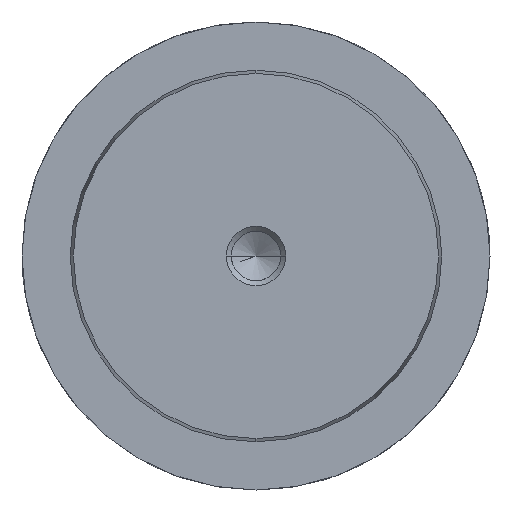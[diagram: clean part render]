
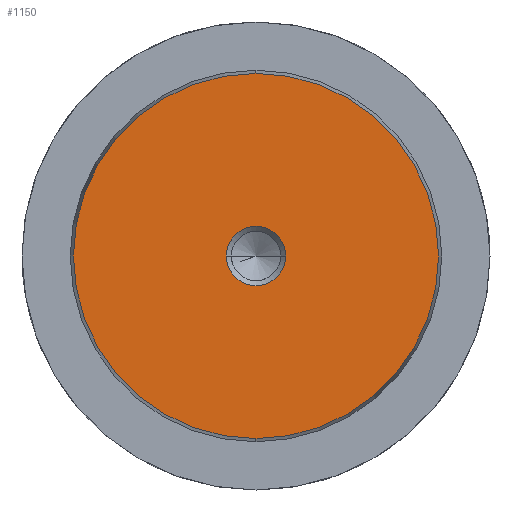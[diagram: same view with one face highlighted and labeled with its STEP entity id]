
A CAD part, left-side view. The second image highlights one B-rep face of the part: STEP entity #1150.
In plain terms, the highlighted planar face has unit normal (-1, 0, 0).
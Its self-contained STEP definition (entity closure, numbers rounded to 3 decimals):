
#1064=CARTESIAN_POINT('Vertex',(0.,0.,-24.578)) ;
#1067=CARTESIAN_POINT('Axis2P3D Location',(0.,0.,0.)) ;
#1071=CARTESIAN_POINT('Vertex',(0.,24.578,0.)) ;
#1074=CARTESIAN_POINT('Axis2P3D Location',(0.,0.,0.)) ;
#1078=CARTESIAN_POINT('Vertex',(0.,0.,24.578)) ;
#1100=CARTESIAN_POINT('Axis2P3D Location',(0.,0.,0.)) ;
#1104=CARTESIAN_POINT('Vertex',(0.,-24.578,0.)) ;
#1107=CARTESIAN_POINT('Axis2P3D Location',(0.,0.,0.)) ;
#1121=CARTESIAN_POINT('Axis2P3D Location',(0.,0.,0.)) ;
#1132=CARTESIAN_POINT('Axis2P3D Location',(0.,0.,0.)) ;
#1136=CARTESIAN_POINT('Vertex',(0.,4.,0.)) ;
#1138=CARTESIAN_POINT('Vertex',(0.,-4.,0.)) ;
#1141=CARTESIAN_POINT('Axis2P3D Location',(0.,0.,0.)) ;
#1068=DIRECTION('Axis2P3D Direction',(1.,0.,-0.)) ;
#1075=DIRECTION('Axis2P3D Direction',(1.,0.,-0.)) ;
#1101=DIRECTION('Axis2P3D Direction',(1.,0.,-0.)) ;
#1108=DIRECTION('Axis2P3D Direction',(1.,0.,-0.)) ;
#1122=DIRECTION('Axis2P3D Direction',(1.,0.,-0.)) ;
#1123=DIRECTION('Axis2P3D XDirection',(-0.,0.,-1.)) ;
#1133=DIRECTION('Axis2P3D Direction',(1.,0.,-0.)) ;
#1142=DIRECTION('Axis2P3D Direction',(1.,0.,-0.)) ;
#1069=AXIS2_PLACEMENT_3D('Circle Axis2P3D',#1067,#1068,$) ;
#1076=AXIS2_PLACEMENT_3D('Circle Axis2P3D',#1074,#1075,$) ;
#1102=AXIS2_PLACEMENT_3D('Circle Axis2P3D',#1100,#1101,$) ;
#1109=AXIS2_PLACEMENT_3D('Circle Axis2P3D',#1107,#1108,$) ;
#1124=AXIS2_PLACEMENT_3D('Plane Axis2P3D',#1121,#1122,#1123) ;
#1134=AXIS2_PLACEMENT_3D('Circle Axis2P3D',#1132,#1133,$) ;
#1143=AXIS2_PLACEMENT_3D('Circle Axis2P3D',#1141,#1142,$) ;
#1127=ORIENTED_EDGE('',*,*,#1073,.F.) ;
#1128=ORIENTED_EDGE('',*,*,#1111,.F.) ;
#1129=ORIENTED_EDGE('',*,*,#1106,.F.) ;
#1130=ORIENTED_EDGE('',*,*,#1080,.F.) ;
#1147=ORIENTED_EDGE('',*,*,#1140,.T.) ;
#1148=ORIENTED_EDGE('',*,*,#1145,.T.) ;
#1149=FACE_BOUND('',#1146,.T.) ;
#1150=ADVANCED_FACE('718-50x140',(#1131,#1149),#1125,.F.) ;
#1070=CIRCLE('generated circle',#1069,24.578) ;
#1077=CIRCLE('generated circle',#1076,24.578) ;
#1103=CIRCLE('generated circle',#1102,24.578) ;
#1110=CIRCLE('generated circle',#1109,24.578) ;
#1135=CIRCLE('generated circle',#1134,4.) ;
#1144=CIRCLE('generated circle',#1143,4.) ;
#1073=EDGE_CURVE('',#1065,#1072,#1070,.T.) ;
#1080=EDGE_CURVE('',#1072,#1079,#1077,.T.) ;
#1106=EDGE_CURVE('',#1079,#1105,#1103,.T.) ;
#1111=EDGE_CURVE('',#1105,#1065,#1110,.T.) ;
#1140=EDGE_CURVE('',#1137,#1139,#1135,.T.) ;
#1145=EDGE_CURVE('',#1139,#1137,#1144,.T.) ;
#1126=EDGE_LOOP('',(#1127,#1128,#1129,#1130)) ;
#1146=EDGE_LOOP('',(#1147,#1148)) ;
#1131=FACE_OUTER_BOUND('',#1126,.T.) ;
#1125=PLANE('Plane',#1124) ;
#1065=VERTEX_POINT('',#1064) ;
#1072=VERTEX_POINT('',#1071) ;
#1079=VERTEX_POINT('',#1078) ;
#1105=VERTEX_POINT('',#1104) ;
#1137=VERTEX_POINT('',#1136) ;
#1139=VERTEX_POINT('',#1138) ;
